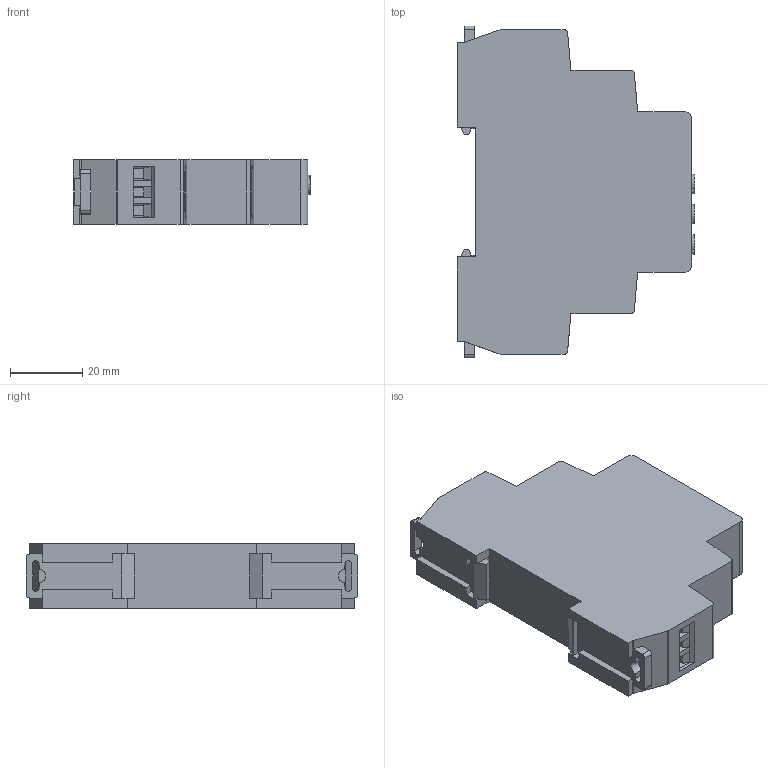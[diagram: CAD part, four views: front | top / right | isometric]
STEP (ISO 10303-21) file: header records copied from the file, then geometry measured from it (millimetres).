
FILE_DESCRIPTION (( 'STEP AP203' ), '1' );
FILE_NAME ('Ðåëå âðåìåíè RT-10F.STEP', '2021-11-25T20:40:21', ( '' ), ( '' ), 'SwSTEP 2.0', 'SolidWorks 2017', '' );
FILE_SCHEMA (( 'CONFIG_CONTROL_DESIGN' ));
Length unit declared in the file: millimetre
Products named in the file (1): Ðåëå âðåìåíè RT-10F
Bounding box: 65.8 x 92 x 18 mm (x, y, z)
Volume: 79897.2 mm3; surface area: 18284.7 mm2
Topology: 7 solids, 7 shells, 425 faces, 1115 edges, 730 vertices
Faces by surface type: plane 299, cylinder 105, torus 18, sphere 3
Entity records: 13028 total; most frequent: CARTESIAN_POINT 2298, ORIENTED_EDGE 2218, DIRECTION 2189, EDGE_CURVE 1109, VECTOR 857, LINE 857, VERTEX_POINT 727, AXIS2_PLACEMENT_3D 666
